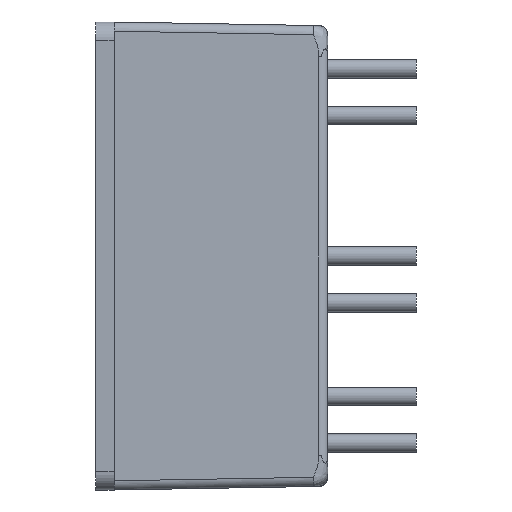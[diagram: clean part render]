
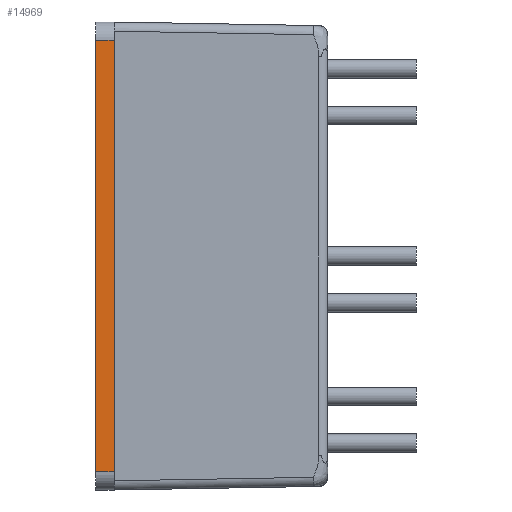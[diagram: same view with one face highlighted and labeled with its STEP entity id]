
A CAD part, left-side view. The second image highlights one B-rep face of the part: STEP entity #14969.
In plain terms, the highlighted planar face has unit normal (-1, 0, 0).
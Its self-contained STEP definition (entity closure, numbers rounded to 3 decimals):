
#424 = CARTESIAN_POINT ( 'NONE',  ( -25.4, 1., 11.7 ) ) ;
#981 = EDGE_CURVE ( 'NONE', #4965, #12428, #4978, .T. ) ;
#991 = DIRECTION ( 'NONE',  ( 0., -1., 0. ) ) ;
#1882 = AXIS2_PLACEMENT_3D ( 'NONE', #19775, #5148, #11054 ) ;
#2154 = VERTEX_POINT ( 'NONE', #22009 ) ;
#2442 = CARTESIAN_POINT ( 'NONE',  ( -25.4, 1., 11.7 ) ) ;
#3517 = EDGE_CURVE ( 'NONE', #2154, #4900, #19898, .T. ) ;
#3911 = ORIENTED_EDGE ( 'NONE', *, *, #11786, .T. ) ;
#4007 = EDGE_LOOP ( 'NONE', ( #11293, #15719, #4354, #3911 ) ) ;
#4354 = ORIENTED_EDGE ( 'NONE', *, *, #3517, .F. ) ;
#4740 = LINE ( 'NONE', #10286, #23045 ) ;
#4900 = VERTEX_POINT ( 'NONE', #7597 ) ;
#4965 = VERTEX_POINT ( 'NONE', #424 ) ;
#4978 = LINE ( 'NONE', #16064, #9406 ) ;
#5148 = DIRECTION ( 'NONE',  ( -1., 0., 0. ) ) ;
#5573 = VECTOR ( 'NONE', #22023, 1000. ) ;
#5614 = PLANE ( 'NONE',  #1882 ) ;
#6085 = LINE ( 'NONE', #2442, #5573 ) ;
#6418 = VECTOR ( 'NONE', #16713, 1000. ) ;
#6748 = CARTESIAN_POINT ( 'NONE',  ( -25.4, 1., -11.7 ) ) ;
#7097 = DIRECTION ( 'NONE',  ( 0., 0., -1. ) ) ;
#7597 = CARTESIAN_POINT ( 'NONE',  ( -25.4, 0., -11.7 ) ) ;
#9406 = VECTOR ( 'NONE', #7097, 1000. ) ;
#10286 = CARTESIAN_POINT ( 'NONE',  ( -25.4, 1., -11.7 ) ) ;
#11054 = DIRECTION ( 'NONE',  ( 0., 0., 1. ) ) ;
#11293 = ORIENTED_EDGE ( 'NONE', *, *, #981, .T. ) ;
#11786 = EDGE_CURVE ( 'NONE', #2154, #4965, #6085, .T. ) ;
#12428 = VERTEX_POINT ( 'NONE', #6748 ) ;
#12696 = FACE_OUTER_BOUND ( 'NONE', #4007, .T. ) ;
#14969 = ADVANCED_FACE ( 'NONE', ( #12696 ), #5614, .T. ) ;
#15719 = ORIENTED_EDGE ( 'NONE', *, *, #19405, .T. ) ;
#16064 = CARTESIAN_POINT ( 'NONE',  ( -25.4, 1., -12.7 ) ) ;
#16595 = CARTESIAN_POINT ( 'NONE',  ( -25.4, 0., -12.7 ) ) ;
#16713 = DIRECTION ( 'NONE',  ( 0., 0., -1. ) ) ;
#19405 = EDGE_CURVE ( 'NONE', #12428, #4900, #4740, .T. ) ;
#19775 = CARTESIAN_POINT ( 'NONE',  ( -25.4, 1., -12.7 ) ) ;
#19898 = LINE ( 'NONE', #16595, #6418 ) ;
#22009 = CARTESIAN_POINT ( 'NONE',  ( -25.4, 0., 11.7 ) ) ;
#22023 = DIRECTION ( 'NONE',  ( 0., 1., 0. ) ) ;
#23045 = VECTOR ( 'NONE', #991, 1000. ) ;
